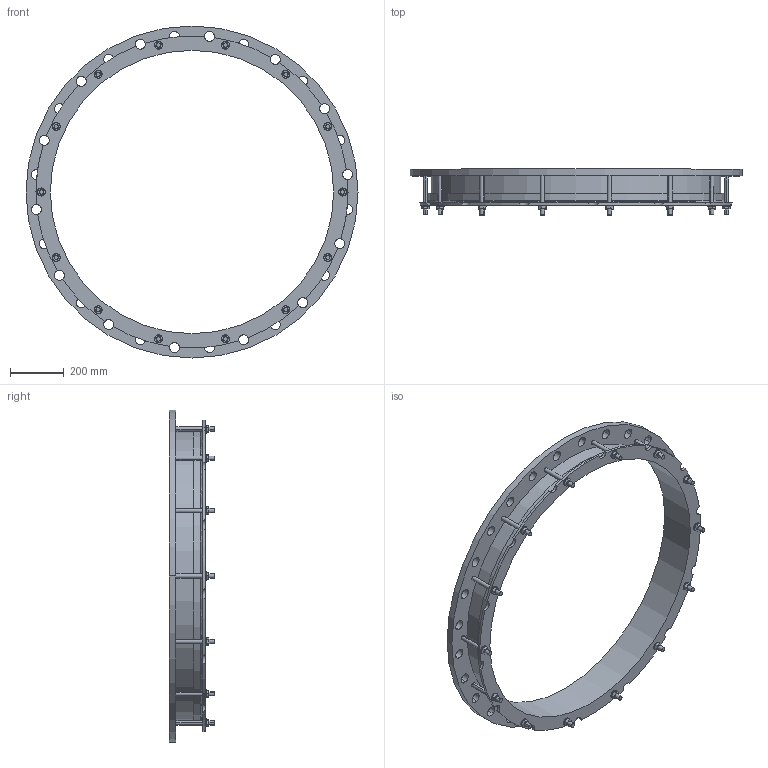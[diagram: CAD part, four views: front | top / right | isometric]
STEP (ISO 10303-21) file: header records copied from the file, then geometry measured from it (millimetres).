
FILE_DESCRIPTION((''),'2;1');
FILE_NAME('1048X1000PN10_14NOT','2019-01-17T',('mfairey'),('Glynwed Pipe Systems'),'CREO PARAMETRIC BY PTC INC, 2016130','CREO PARAMETRIC BY PTC INC, 2016130','');
FILE_SCHEMA(('CONFIG_CONTROL_DESIGN'));
Length unit declared in the file: millimetre
Products named in the file (1): 1048X1000PN10_14NOT
Bounding box: 1230 x 169 x 1230 mm (x, y, z)
Volume: 14690754.8 mm3; surface area: 1936244.5 mm2
Topology: 1 solids, 1 shells, 310 faces, 832 edges, 554 vertices
Faces by surface type: cylinder 174, plane 130, cone 4, torus 2
Entity records: 11460 total; most frequent: CARTESIAN_POINT 3286, DIRECTION 1706, ORIENTED_EDGE 1664, EDGE_CURVE 832, AXIS2_PLACEMENT_3D 638, VERTEX_POINT 554, VECTOR 430, LINE 430
